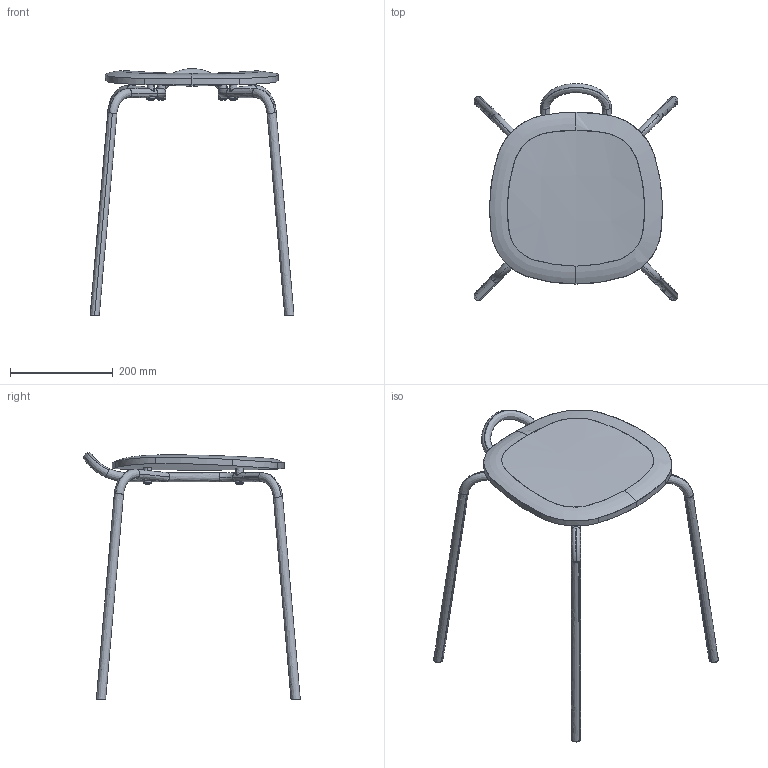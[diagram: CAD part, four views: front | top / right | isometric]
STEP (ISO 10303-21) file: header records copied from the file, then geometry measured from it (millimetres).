
FILE_DESCRIPTION(/* description */ (''),/* implementation_level */ '2;1');
FILE_NAME(/* name */ 'MC16_F~2',/* time_stamp */ '2021-04-14T13:36:26+02:00',/* author */ (''),/* organization */ (''),/* preprocessor_version */ 'ST-DEVELOPER v16.5',/* originating_system */ '',/* authorisation */ '');
FILE_SCHEMA (('AUTOMOTIVE_DESIGN'));
Length unit declared in the file: millimetre
Products named in the file (1): Document
Bounding box: 397.55 x 422.18 x 480.56 mm (x, y, z)
Surface area: 502124.9 mm2 (no closed solid volume)
Topology: 0 solids, 253 shells, 253 faces, 1252 edges, 1233 vertices
Faces by surface type: bspline 253
Entity records: 74985 total; most frequent: CARTESIAN_POINT 64042, B_SPLINE_CURVE_WITH_KNOTS 1904, ORIENTED_EDGE 1238, PCURVE 1238, DEFINITIONAL_REPRESENTATION 1238, SURFACE_CURVE 1236, EDGE_CURVE 1236, VERTEX_POINT 1232
